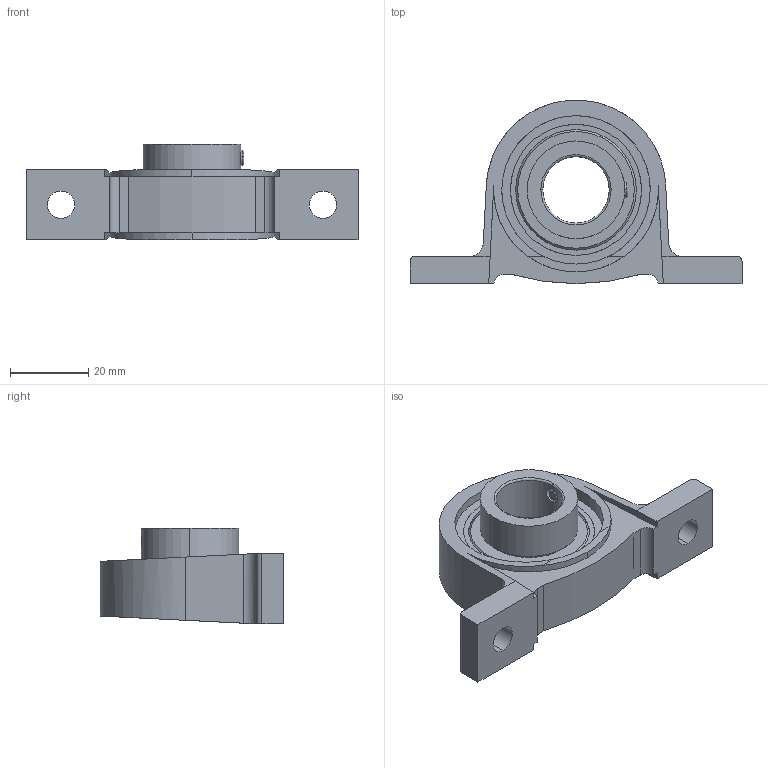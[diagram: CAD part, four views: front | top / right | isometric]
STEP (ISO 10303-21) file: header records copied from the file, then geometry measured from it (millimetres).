
FILE_DESCRIPTION (( 'STEP AP214' ), '1' );
FILE_NAME ('4.0015 Laakeri USBP 003 JIB.STEP', '2025-09-24T07:34:09', ( '' ), ( '' ), 'SwSTEP 2.0', 'SolidWorks 2025', '' );
FILE_SCHEMA (( 'AUTOMOTIVE_DESIGN' ));
Length unit declared in the file: millimetre
Products named in the file (1): 4.0015 Laakeri USBP 003 JIB
Bounding box: 85 x 46.94 x 24.5 mm (x, y, z)
Volume: 26824 mm3; surface area: 17139.5 mm2
Topology: 2 solids, 2 shells, 225 faces, 699 edges, 452 vertices
Faces by surface type: sphere 64, torus 54, cylinder 52, plane 45, cone 10
Entity records: 16588 total; most frequent: CARTESIAN_POINT 10565, ORIENTED_EDGE 1380, DIRECTION 1104, EDGE_CURVE 690, AXIS2_PLACEMENT_3D 480, VERTEX_POINT 449, B_SPLINE_CURVE_WITH_KNOTS 276, EDGE_LOOP 273
